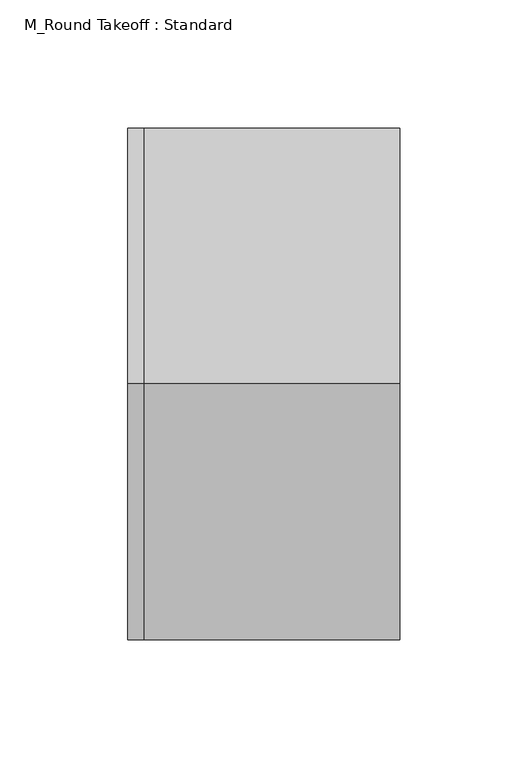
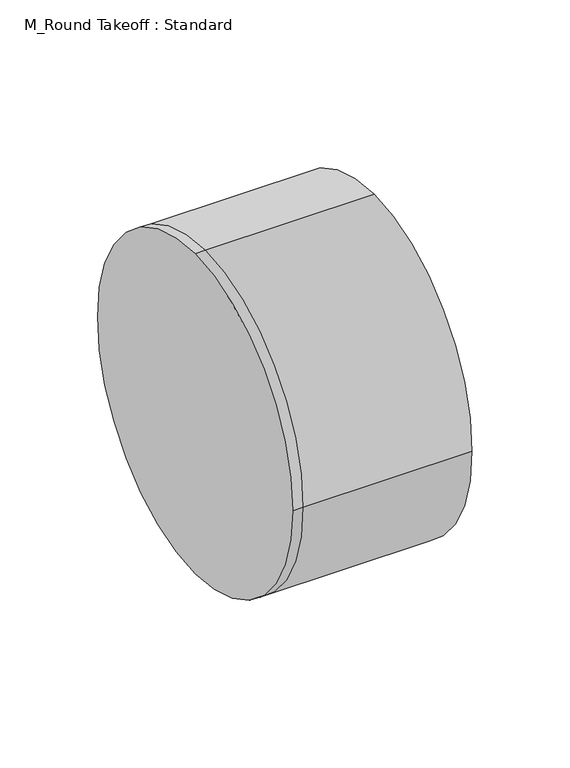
"""IFC4 building model written with IfcOpenShell, lengths in millimetres: duct fitting geometry, M_Round Takeoff : Standard."""

from ifc_helpers import new_model, si_unit, frame, origin, place, context, project, spatial, circle_curve, source, transform, mapped, element, save
from ifc_brep_helpers import plane_surface, cylinder_surface, advanced_brep


def m_round_takeoff_standard_8efdd074(model_context):
    return source(origin(), model_context, "Body", "AdvancedBrep", [
        advanced_brep(
        [(-6.096, 0.0, 100.0), (-6.096, 100.0, 0.0), (-6.096, 0.0, -100.0), (-6.096, -100.0, 0.0), (0.0, -100.0, 0.0), (0.0, 0.0, 100.0), (0.0, 0.0, -100.0), (0.0, 100.0, 0.0), (100.0, 0.0, 100.0), (100.0, -100.0, 0.0), (100.0, 0.0, -100.0), (100.0, 100.0, 0.0)],
        [
            (0, 1, circle_curve(frame((-6.096, 0.0, 0.0), z_axis=(-1.0, 0.0, 0.0), x_axis=(0.0, -1.0, 0.0)), 100.0)),
            (1, 2, circle_curve(frame((-6.096, 0.0, 0.0), z_axis=(-1.0, 0.0, 0.0), x_axis=(0.0, -1.0, 0.0)), 100.0)),
            (2, 3, circle_curve(frame((-6.096, 0.0, 0.0), z_axis=(-1.0, 0.0, 0.0), x_axis=(0.0, -1.0, 0.0)), 100.0)),
            (3, 0, circle_curve(frame((-6.096, 0.0, 0.0), z_axis=(-1.0, 0.0, 0.0), x_axis=(0.0, -1.0, 0.0)), 100.0)),
            (3, 4),
            (4, 5, circle_curve(frame((0.0, 0.0, 0.0), z_axis=(-1.0, 0.0, 0.0), x_axis=(0.0, -1.0, 0.0)), 100.0)),
            (5, 0),
            (2, 6),
            (6, 4, circle_curve(frame((0.0, 0.0, 0.0), z_axis=(-1.0, 0.0, 0.0), x_axis=(0.0, -1.0, 0.0)), 100.0)),
            (1, 7),
            (7, 6, circle_curve(frame((0.0, 0.0, 0.0), z_axis=(-1.0, 0.0, 0.0), x_axis=(0.0, -1.0, 0.0)), 100.0)),
            (5, 7, circle_curve(frame((0.0, 0.0, 0.0), z_axis=(-1.0, 0.0, 0.0), x_axis=(0.0, -1.0, 0.0)), 100.0)),
            (8, 9, circle_curve(frame((100.0, 0.0, 0.0), z_axis=(1.0, 0.0, 0.0), x_axis=(0.0, -1.0, 0.0)), 100.0)),
            (9, 10, circle_curve(frame((100.0, 0.0, 0.0), z_axis=(1.0, 0.0, 0.0), x_axis=(0.0, -1.0, 0.0)), 100.0)),
            (10, 11, circle_curve(frame((100.0, 0.0, 0.0), z_axis=(1.0, 0.0, 0.0), x_axis=(0.0, -1.0, 0.0)), 100.0)),
            (11, 8, circle_curve(frame((100.0, 0.0, 0.0), z_axis=(1.0, 0.0, 0.0), x_axis=(0.0, -1.0, 0.0)), 100.0)),
            (8, 5),
            (4, 9),
            (6, 10),
            (7, 11),
        ],
        [
            plane_surface(frame((-6.096, 0.0, 0.0), z_axis=(-1.0, 0.0, 0.0), x_axis=(0.0, 0.0, 1.0))),
            cylinder_surface(frame((-6.096, 0.0, 0.0), z_axis=(-1.0, 0.0, 0.0), x_axis=(0.0, -1.0, 0.0)), 100.0),
            plane_surface(frame((100.0, 0.0, 0.0), z_axis=(1.0, 0.0, 0.0), x_axis=(0.0, 0.0, 1.0))),
            cylinder_surface(frame((0.0, 0.0, 0.0), z_axis=(-1.0, 0.0, 0.0), x_axis=(0.0, -1.0, 0.0)), 100.0),
        ],
        [
            (0, [[1, 2, 3, 4]]),
            (1, [[5, 6, 7, -4]]),
            (1, [[8, 9, -5, -3]]),
            (1, [[10, 11, -8, -2]]),
            (1, [[-7, 12, -10, -1]]),
            (2, [[13, 14, 15, 16]]),
            (3, [[17, -6, 18, -13]]),
            (3, [[-18, -9, 19, -14]]),
            (3, [[-19, -11, 20, -15]]),
            (3, [[-20, -12, -17, -16]]),
        ],
    ),
        advanced_brep(
        [(100.0, 0.0, 100.0), (100.0, -100.0, 0.0), (100.0, 0.0, -100.0), (100.0, 100.0, 0.0), (0.0, 0.0, 100.0), (0.0, -100.0, 0.0), (0.0, 0.0, -100.0), (0.0, 100.0, 0.0), (-6.096, 0.0, 100.0), (-6.096, 100.0, 0.0), (-6.096, 0.0, -100.0), (-6.096, -100.0, 0.0)],
        [
            (0, 1, circle_curve(frame((100.0, 0.0, 0.0), z_axis=(1.0, 0.0, 0.0), x_axis=(0.0, -1.0, 0.0)), 100.0)),
            (1, 2, circle_curve(frame((100.0, 0.0, 0.0), z_axis=(1.0, 0.0, 0.0), x_axis=(0.0, -1.0, 0.0)), 100.0)),
            (2, 3, circle_curve(frame((100.0, 0.0, 0.0), z_axis=(1.0, 0.0, 0.0), x_axis=(0.0, -1.0, 0.0)), 100.0)),
            (3, 0, circle_curve(frame((100.0, 0.0, 0.0), z_axis=(1.0, 0.0, 0.0), x_axis=(0.0, -1.0, 0.0)), 100.0)),
            (0, 4),
            (4, 5, circle_curve(frame((0.0, 0.0, 0.0), z_axis=(1.0, 0.0, 0.0), x_axis=(0.0, -1.0, 0.0)), 100.0)),
            (5, 1),
            (5, 6, circle_curve(frame((0.0, 0.0, 0.0), z_axis=(1.0, 0.0, 0.0), x_axis=(0.0, -1.0, 0.0)), 100.0)),
            (6, 2),
            (6, 7, circle_curve(frame((0.0, 0.0, 0.0), z_axis=(1.0, 0.0, 0.0), x_axis=(0.0, -1.0, 0.0)), 100.0)),
            (7, 3),
            (7, 4, circle_curve(frame((0.0, 0.0, 0.0), z_axis=(1.0, 0.0, 0.0), x_axis=(0.0, -1.0, 0.0)), 100.0)),
            (8, 9, circle_curve(frame((-6.096, 0.0, 0.0), z_axis=(-1.0, 0.0, 0.0), x_axis=(0.0, -1.0, 0.0)), 100.0)),
            (9, 10, circle_curve(frame((-6.096, 0.0, 0.0), z_axis=(-1.0, 0.0, 0.0), x_axis=(0.0, -1.0, 0.0)), 100.0)),
            (10, 11, circle_curve(frame((-6.096, 0.0, 0.0), z_axis=(-1.0, 0.0, 0.0), x_axis=(0.0, -1.0, 0.0)), 100.0)),
            (11, 8, circle_curve(frame((-6.096, 0.0, 0.0), z_axis=(-1.0, 0.0, 0.0), x_axis=(0.0, -1.0, 0.0)), 100.0)),
            (11, 5),
            (4, 8),
            (10, 6),
            (9, 7),
        ],
        [
            plane_surface(frame((100.0, 0.0, 0.0), z_axis=(1.0, 0.0, 0.0), x_axis=(0.0, 0.0, 1.0))),
            cylinder_surface(frame((0.0, 0.0, 0.0), z_axis=(-1.0, 0.0, 0.0), x_axis=(0.0, -1.0, 0.0)), 100.0),
            plane_surface(frame((-6.096, 0.0, 0.0), z_axis=(-1.0, 0.0, 0.0), x_axis=(0.0, 0.0, 1.0))),
            cylinder_surface(frame((-6.096, 0.0, 0.0), z_axis=(-1.0, 0.0, 0.0), x_axis=(0.0, -1.0, 0.0)), 100.0),
        ],
        [
            (0, [[1, 2, 3, 4]]),
            (1, [[5, 6, 7, -1]]),
            (1, [[-7, 8, 9, -2]]),
            (1, [[-9, 10, 11, -3]]),
            (1, [[-11, 12, -5, -4]]),
            (2, [[13, 14, 15, 16]]),
            (3, [[17, -6, 18, -16]]),
            (3, [[19, -8, -17, -15]]),
            (3, [[20, -10, -19, -14]]),
            (3, [[-18, -12, -20, -13]]),
        ],
    ),
        advanced_brep(
        [(-6.096, 0.0, 100.0), (-6.096, 100.0, 0.0), (-6.096, 0.0, -100.0), (-6.096, -100.0, 0.0), (0.0, -100.0, 0.0), (0.0, 0.0, 100.0), (0.0, 0.0, -100.0), (0.0, 100.0, 0.0), (100.0, 0.0, 100.0), (100.0, -100.0, 0.0), (100.0, 0.0, -100.0), (100.0, 100.0, 0.0)],
        [
            (0, 1, circle_curve(frame((-6.096, 0.0, 0.0), z_axis=(-1.0, 0.0, 0.0), x_axis=(0.0, -1.0, 0.0)), 100.0)),
            (1, 2, circle_curve(frame((-6.096, 0.0, 0.0), z_axis=(-1.0, 0.0, 0.0), x_axis=(0.0, -1.0, 0.0)), 100.0)),
            (2, 3, circle_curve(frame((-6.096, 0.0, 0.0), z_axis=(-1.0, 0.0, 0.0), x_axis=(0.0, -1.0, 0.0)), 100.0)),
            (3, 0, circle_curve(frame((-6.096, 0.0, 0.0), z_axis=(-1.0, 0.0, 0.0), x_axis=(0.0, -1.0, 0.0)), 100.0)),
            (3, 4),
            (4, 5, circle_curve(frame((0.0, 0.0, 0.0), z_axis=(-1.0, 0.0, 0.0), x_axis=(0.0, -1.0, 0.0)), 100.0)),
            (5, 0),
            (2, 6),
            (6, 4, circle_curve(frame((0.0, 0.0, 0.0), z_axis=(-1.0, 0.0, 0.0), x_axis=(0.0, -1.0, 0.0)), 100.0)),
            (1, 7),
            (7, 6, circle_curve(frame((0.0, 0.0, 0.0), z_axis=(-1.0, 0.0, 0.0), x_axis=(0.0, -1.0, 0.0)), 100.0)),
            (5, 7, circle_curve(frame((0.0, 0.0, 0.0), z_axis=(-1.0, 0.0, 0.0), x_axis=(0.0, -1.0, 0.0)), 100.0)),
            (8, 9, circle_curve(frame((100.0, 0.0, 0.0), z_axis=(1.0, 0.0, 0.0), x_axis=(0.0, -1.0, 0.0)), 100.0)),
            (9, 10, circle_curve(frame((100.0, 0.0, 0.0), z_axis=(1.0, 0.0, 0.0), x_axis=(0.0, -1.0, 0.0)), 100.0)),
            (10, 11, circle_curve(frame((100.0, 0.0, 0.0), z_axis=(1.0, 0.0, 0.0), x_axis=(0.0, -1.0, 0.0)), 100.0)),
            (11, 8, circle_curve(frame((100.0, 0.0, 0.0), z_axis=(1.0, 0.0, 0.0), x_axis=(0.0, -1.0, 0.0)), 100.0)),
            (8, 5),
            (4, 9),
            (6, 10),
            (7, 11),
        ],
        [
            plane_surface(frame((-6.096, 0.0, 0.0), z_axis=(-1.0, 0.0, 0.0), x_axis=(0.0, 0.0, 1.0))),
            cylinder_surface(frame((-6.096, 0.0, 0.0), z_axis=(-1.0, 0.0, 0.0), x_axis=(0.0, -1.0, 0.0)), 100.0),
            plane_surface(frame((100.0, 0.0, 0.0), z_axis=(1.0, 0.0, 0.0), x_axis=(0.0, 0.0, 1.0))),
            cylinder_surface(frame((0.0, 0.0, 0.0), z_axis=(-1.0, 0.0, 0.0), x_axis=(0.0, -1.0, 0.0)), 100.0),
        ],
        [
            (0, [[1, 2, 3, 4]]),
            (1, [[5, 6, 7, -4]]),
            (1, [[8, 9, -5, -3]]),
            (1, [[10, 11, -8, -2]]),
            (1, [[-7, 12, -10, -1]]),
            (2, [[13, 14, 15, 16]]),
            (3, [[17, -6, 18, -13]]),
            (3, [[-18, -9, 19, -14]]),
            (3, [[-19, -11, 20, -15]]),
            (3, [[-20, -12, -17, -16]]),
        ],
    ),
    ])


if __name__ == "__main__":
    model = new_model("IFC4")
    model_context = context("Model", 3, world=origin())
    ifc_project = project(units=[si_unit("LENGTHUNIT", "METRE", prefix="MILLI")], contexts=[model_context])
    site = spatial("IfcSite", under=ifc_project)
    building = spatial("IfcBuilding", under=site)
    placement = place(None, origin())
    m_round_takeoff_standard_shape = m_round_takeoff_standard_8efdd074(model_context)
    element("IfcDuctFitting", 1, ObjectType="M_Round Takeoff : Standard", at=placement, inside=building, context=model_context, shape_type="MappedRepresentation", body=[
        mapped(m_round_takeoff_standard_shape, transform((0.0, 0.0, 0.0), x_axis=(1.0, 0.0, 0.0), y_axis=(0.0, 1.0, 0.0), z_axis=(0.0, 0.0, 1.0))),
    ])
    save(model, "model.ifc")
